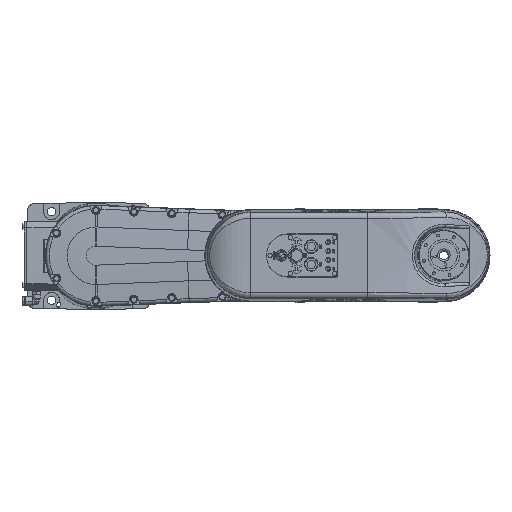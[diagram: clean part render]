
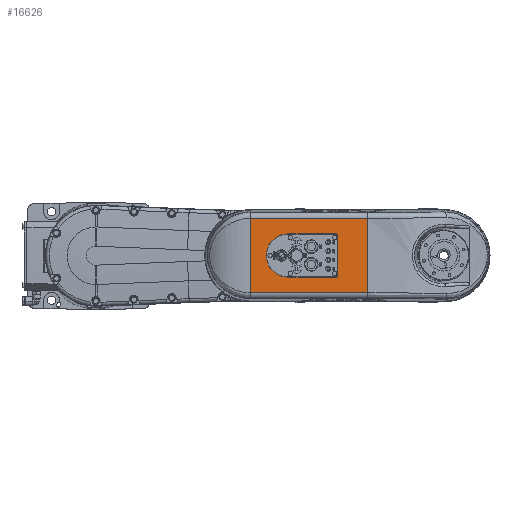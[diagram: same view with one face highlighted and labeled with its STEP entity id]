
A CAD part, top view. The second image highlights one B-rep face of the part: STEP entity #16626.
In plain terms, the highlighted planar face has unit normal (0, 0, 1).
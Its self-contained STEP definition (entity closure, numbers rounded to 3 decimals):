
#79 = VECTOR ( 'NONE', #64170, 1000. ) ;
#1848 = VERTEX_POINT ( 'NONE', #36992 ) ;
#4231 = VERTEX_POINT ( 'NONE', #55632 ) ;
#5450 = AXIS2_PLACEMENT_3D ( 'NONE', #102644, #76648, #6893 ) ;
#5560 = AXIS2_PLACEMENT_3D ( 'NONE', #78145, #94973, #25911 ) ;
#6277 = VERTEX_POINT ( 'NONE', #65497 ) ;
#6595 = VERTEX_POINT ( 'NONE', #82420 ) ;
#6893 = DIRECTION ( 'NONE',  ( 0., -1., 0. ) ) ;
#7376 = CARTESIAN_POINT ( 'NONE',  ( 382.5, -34., 457.7 ) ) ;
#10248 = CARTESIAN_POINT ( 'NONE',  ( 382.5, -33.172, 457.7 ) ) ;
#10852 = EDGE_CURVE ( 'NONE', #6595, #14254, #19648, .T. ) ;
#11352 = VECTOR ( 'NONE', #22712, 1000. ) ;
#13570 = LINE ( 'NONE', #98826, #83153 ) ;
#13900 = VERTEX_POINT ( 'NONE', #95179 ) ;
#14254 = VERTEX_POINT ( 'NONE', #57511 ) ;
#16626 = ADVANCED_FACE ( 'NONE', ( #105818, #63484 ), #41595, .T. ) ;
#17362 = EDGE_CURVE ( 'NONE', #32238, #62837, #82303, .T. ) ;
#19435 = VECTOR ( 'NONE', #44076, 1000. ) ;
#19648 = LINE ( 'NONE', #20292, #63393 ) ;
#20292 = CARTESIAN_POINT ( 'NONE',  ( 430., -59.156, 457.7 ) ) ;
#21660 = EDGE_CURVE ( 'NONE', #76920, #24403, #51073, .T. ) ;
#22712 = DIRECTION ( 'NONE',  ( -1., 0., 0. ) ) ;
#23468 = CARTESIAN_POINT ( 'NONE',  ( 382.5, 34., 457.7 ) ) ;
#23902 = CARTESIAN_POINT ( 'NONE',  ( 303.5, 34., 457.7 ) ) ;
#24403 = VERTEX_POINT ( 'NONE', #85852 ) ;
#24978 =( BOUNDED_CURVE ( )  B_SPLINE_CURVE ( 3, ( #34138, #34526, #68947, #61367 ),
 .UNSPECIFIED., .F., .F. ) 
 B_SPLINE_CURVE_WITH_KNOTS ( ( 4, 4 ),
 ( 2.357, 3.927 ),
 .UNSPECIFIED. ) 
 CURVE ( )  GEOMETRIC_REPRESENTATION_ITEM ( )  RATIONAL_B_SPLINE_CURVE ( ( 1., 0.805, 0.805, 1. ) ) 
 REPRESENTATION_ITEM ( '' )  );
#25083 = VECTOR ( 'NONE', #79765, 1000. ) ;
#25911 = DIRECTION ( 'NONE',  ( 0., 1., 0. ) ) ;
#28986 = EDGE_CURVE ( 'NONE', #13900, #24403, #85798, .T. ) ;
#32164 = ORIENTED_EDGE ( 'NONE', *, *, #97714, .F. ) ;
#32238 = VERTEX_POINT ( 'NONE', #104625 ) ;
#34138 = CARTESIAN_POINT ( 'NONE',  ( 380.501, 34., 457.7 ) ) ;
#34526 = CARTESIAN_POINT ( 'NONE',  ( 381.672, 34., 457.7 ) ) ;
#36992 = CARTESIAN_POINT ( 'NONE',  ( 245., 59.156, 457.7 ) ) ;
#41595 = PLANE ( 'NONE',  #5450 ) ;
#41666 = ORIENTED_EDGE ( 'NONE', *, *, #66163, .T. ) ;
#41868 = CARTESIAN_POINT ( 'NONE',  ( 245., -705.242, 457.7 ) ) ;
#43960 = EDGE_CURVE ( 'NONE', #62837, #76920, #63881, .T. ) ;
#44076 = DIRECTION ( 'NONE',  ( 0., 1., 0. ) ) ;
#46441 = LINE ( 'NONE', #63793, #79 ) ;
#47514 = EDGE_LOOP ( 'NONE', ( #41666, #96542, #102969, #52149 ) ) ;
#51073 = LINE ( 'NONE', #7376, #25083 ) ;
#52149 = ORIENTED_EDGE ( 'NONE', *, *, #10852, .T. ) ;
#54129 = CARTESIAN_POINT ( 'NONE',  ( 380.501, -34., 457.7 ) ) ;
#55632 = CARTESIAN_POINT ( 'NONE',  ( 430., 59.156, 457.7 ) ) ;
#57511 = CARTESIAN_POINT ( 'NONE',  ( 430., -59.156, 457.7 ) ) ;
#59829 = ORIENTED_EDGE ( 'NONE', *, *, #28986, .T. ) ;
#61367 = CARTESIAN_POINT ( 'NONE',  ( 382.5, 32.001, 457.7 ) ) ;
#62815 = CARTESIAN_POINT ( 'NONE',  ( 430., -705.455, 457.7 ) ) ;
#62837 = VERTEX_POINT ( 'NONE', #23902 ) ;
#63393 = VECTOR ( 'NONE', #63483, 1000. ) ;
#63483 = DIRECTION ( 'NONE',  ( 1., 0., 0. ) ) ;
#63484 = FACE_BOUND ( 'NONE', #78493, .T. ) ;
#63793 = CARTESIAN_POINT ( 'NONE',  ( 382.5, 34., 457.7 ) ) ;
#63881 = CIRCLE ( 'NONE', #5560, 34. ) ;
#64059 = VECTOR ( 'NONE', #111677, 1000. ) ;
#64170 = DIRECTION ( 'NONE',  ( 0., 1., 0. ) ) ;
#65290 = DIRECTION ( 'NONE',  ( -1., 0., 0. ) ) ;
#65497 = CARTESIAN_POINT ( 'NONE',  ( 382.5, 32.001, 457.7 ) ) ;
#66163 = EDGE_CURVE ( 'NONE', #14254, #4231, #75344, .T. ) ;
#68947 = CARTESIAN_POINT ( 'NONE',  ( 382.5, 33.172, 457.7 ) ) ;
#71996 = EDGE_CURVE ( 'NONE', #6595, #1848, #104980, .T. ) ;
#74343 = ORIENTED_EDGE ( 'NONE', *, *, #43960, .F. ) ;
#75344 = LINE ( 'NONE', #62815, #19435 ) ;
#76648 = DIRECTION ( 'NONE',  ( 0., 0., 1. ) ) ;
#76920 = VERTEX_POINT ( 'NONE', #80161 ) ;
#78145 = CARTESIAN_POINT ( 'NONE',  ( 303.5, 0., 457.7 ) ) ;
#78493 = EDGE_LOOP ( 'NONE', ( #87297, #109189, #32164, #59829, #84206, #74343 ) ) ;
#79765 = DIRECTION ( 'NONE',  ( 1., 0., 0. ) ) ;
#80161 = CARTESIAN_POINT ( 'NONE',  ( 303.5, -34., 457.7 ) ) ;
#82303 = LINE ( 'NONE', #23468, #11352 ) ;
#82420 = CARTESIAN_POINT ( 'NONE',  ( 245., -59.156, 457.7 ) ) ;
#83153 = VECTOR ( 'NONE', #65290, 1000. ) ;
#84206 = ORIENTED_EDGE ( 'NONE', *, *, #21660, .F. ) ;
#85798 =( BOUNDED_CURVE ( )  B_SPLINE_CURVE ( 3, ( #87644, #10248, #104864, #54129 ),
 .UNSPECIFIED., .F., .F. ) 
 B_SPLINE_CURVE_WITH_KNOTS ( ( 4, 4 ),
 ( 2.357, 3.927 ),
 .UNSPECIFIED. ) 
 CURVE ( )  GEOMETRIC_REPRESENTATION_ITEM ( )  RATIONAL_B_SPLINE_CURVE ( ( 1., 0.805, 0.805, 1. ) ) 
 REPRESENTATION_ITEM ( '' )  );
#85852 = CARTESIAN_POINT ( 'NONE',  ( 380.501, -34., 457.7 ) ) ;
#87297 = ORIENTED_EDGE ( 'NONE', *, *, #17362, .F. ) ;
#87644 = CARTESIAN_POINT ( 'NONE',  ( 382.5, -32.001, 457.7 ) ) ;
#94973 = DIRECTION ( 'NONE',  ( 0., 0., 1. ) ) ;
#95179 = CARTESIAN_POINT ( 'NONE',  ( 382.5, -32.001, 457.7 ) ) ;
#96542 = ORIENTED_EDGE ( 'NONE', *, *, #97870, .T. ) ;
#97714 = EDGE_CURVE ( 'NONE', #13900, #6277, #46441, .T. ) ;
#97870 = EDGE_CURVE ( 'NONE', #4231, #1848, #13570, .T. ) ;
#98826 = CARTESIAN_POINT ( 'NONE',  ( 245., 59.156, 457.7 ) ) ;
#102644 = CARTESIAN_POINT ( 'NONE',  ( 245., 0., 457.7 ) ) ;
#102969 = ORIENTED_EDGE ( 'NONE', *, *, #71996, .F. ) ;
#104625 = CARTESIAN_POINT ( 'NONE',  ( 380.501, 34., 457.7 ) ) ;
#104864 = CARTESIAN_POINT ( 'NONE',  ( 381.672, -34., 457.7 ) ) ;
#104980 = LINE ( 'NONE', #41868, #64059 ) ;
#105818 = FACE_OUTER_BOUND ( 'NONE', #47514, .T. ) ;
#109189 = ORIENTED_EDGE ( 'NONE', *, *, #109394, .T. ) ;
#109394 = EDGE_CURVE ( 'NONE', #32238, #6277, #24978, .T. ) ;
#111677 = DIRECTION ( 'NONE',  ( 0., 1., 0. ) ) ;
